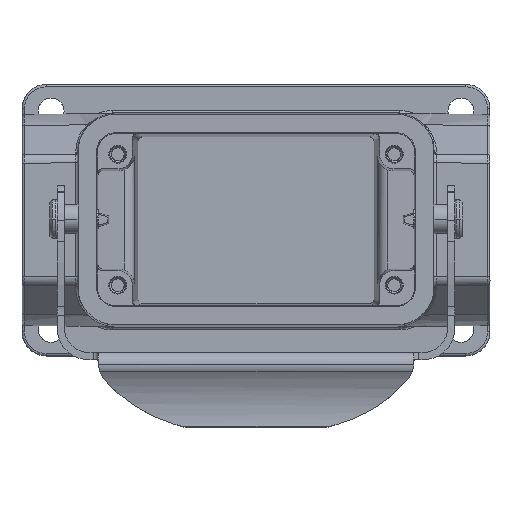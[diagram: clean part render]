
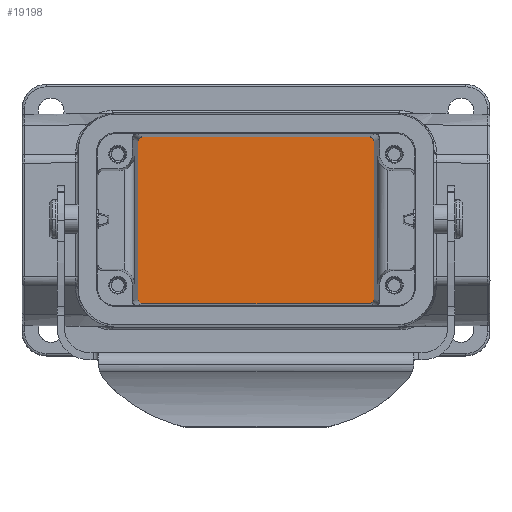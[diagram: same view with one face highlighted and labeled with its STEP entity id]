
A CAD part, top view. The second image highlights one B-rep face of the part: STEP entity #19198.
In plain terms, the highlighted planar face has unit normal (0, 0, 1) as drawn and (0, 1, 0) by its records, which use the part's own axes.
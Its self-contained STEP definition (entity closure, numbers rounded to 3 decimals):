
#61 = VERTEX_POINT ( 'NONE', #18307 ) ;
#327 = CARTESIAN_POINT ( 'NONE',  ( -17.18, 4., 34.194 ) ) ;
#509 = EDGE_CURVE ( 'NONE', #14021, #3366, #556, .T. ) ;
#525 = CARTESIAN_POINT ( 'NONE',  ( 16.181, 4., 34.608 ) ) ;
#556 =( BOUNDED_CURVE ( )  B_SPLINE_CURVE ( 3, ( #16026, #3592, #14548, #6668 ),
 .UNSPECIFIED., .F., .T. ) 
 B_SPLINE_CURVE_WITH_KNOTS ( ( 4, 4 ),
 ( 5.176, 6.747 ),
 .UNSPECIFIED. ) 
 CURVE ( )  GEOMETRIC_REPRESENTATION_ITEM ( )  RATIONAL_B_SPLINE_CURVE ( ( 1., 0.805, 0.805, 1. ) ) 
 REPRESENTATION_ITEM ( '' )  );
#571 = ORIENTED_EDGE ( 'NONE', *, *, #14995, .T. ) ;
#675 = CARTESIAN_POINT ( 'NONE',  ( -17.18, 4., -13.694 ) ) ;
#720 = DIRECTION ( 'NONE',  ( 1., 0., 0. ) ) ;
#795 = CARTESIAN_POINT ( 'NONE',  ( 17.18, 4., 33.608 ) ) ;
#1424 = VECTOR ( 'NONE', #5761, 1000. ) ;
#2074 = VERTEX_POINT ( 'NONE', #5659 ) ;
#2287 =( BOUNDED_CURVE ( )  B_SPLINE_CURVE ( 3, ( #525, #11693, #12910, #795 ),
 .UNSPECIFIED., .F., .F. ) 
 B_SPLINE_CURVE_WITH_KNOTS ( ( 4, 4 ),
 ( 2.678, 4.249 ),
 .UNSPECIFIED. ) 
 CURVE ( )  GEOMETRIC_REPRESENTATION_ITEM ( )  RATIONAL_B_SPLINE_CURVE ( ( 1., 0.805, 0.805, 1. ) ) 
 REPRESENTATION_ITEM ( '' )  );
#2373 = CARTESIAN_POINT ( 'NONE',  ( 0., 4., 0. ) ) ;
#2431 = EDGE_CURVE ( 'NONE', #3366, #2074, #4027, .T. ) ;
#3271 = EDGE_LOOP ( 'NONE', ( #19664, #16877, #17690, #11550, #4729, #571, #3277, #10290 ) ) ;
#3277 = ORIENTED_EDGE ( 'NONE', *, *, #509, .T. ) ;
#3366 = VERTEX_POINT ( 'NONE', #7966 ) ;
#3592 = CARTESIAN_POINT ( 'NONE',  ( 17.18, 4., -13.694 ) ) ;
#3885 = CARTESIAN_POINT ( 'NONE',  ( -16.766, 4., -14.108 ) ) ;
#3951 = PLANE ( 'NONE',  #14513 ) ;
#4027 = LINE ( 'NONE', #4809, #10123 ) ;
#4365 = LINE ( 'NONE', #7333, #1424 ) ;
#4477 = CARTESIAN_POINT ( 'NONE',  ( -16.181, 4., 34.608 ) ) ;
#4729 = ORIENTED_EDGE ( 'NONE', *, *, #14286, .T. ) ;
#4809 = CARTESIAN_POINT ( 'NONE',  ( 0., 4., -14.108 ) ) ;
#5600 = CARTESIAN_POINT ( 'NONE',  ( 17.18, 4., 42.06 ) ) ;
#5659 = CARTESIAN_POINT ( 'NONE',  ( -16.181, 4., -14.108 ) ) ;
#5761 = DIRECTION ( 'NONE',  ( 0., 0., 1. ) ) ;
#6481 = CARTESIAN_POINT ( 'NONE',  ( 17.18, 4., -13.108 ) ) ;
#6668 = CARTESIAN_POINT ( 'NONE',  ( 16.181, 4., -14.108 ) ) ;
#6837 = CARTESIAN_POINT ( 'NONE',  ( -17.18, 4., -13.108 ) ) ;
#7333 = CARTESIAN_POINT ( 'NONE',  ( -17.18, 4., -42.06 ) ) ;
#7550 = VERTEX_POINT ( 'NONE', #4477 ) ;
#7580 = VECTOR ( 'NONE', #720, 1000. ) ;
#7966 = CARTESIAN_POINT ( 'NONE',  ( 16.181, 4., -14.108 ) ) ;
#7985 = EDGE_CURVE ( 'NONE', #61, #9828, #4365, .T. ) ;
#8037 =( BOUNDED_CURVE ( )  B_SPLINE_CURVE ( 3, ( #17377, #327, #12524, #11100 ),
 .UNSPECIFIED., .F., .F. ) 
 B_SPLINE_CURVE_WITH_KNOTS ( ( 4, 4 ),
 ( 5.176, 6.747 ),
 .UNSPECIFIED. ) 
 CURVE ( )  GEOMETRIC_REPRESENTATION_ITEM ( )  RATIONAL_B_SPLINE_CURVE ( ( 1., 0.805, 0.805, 1. ) ) 
 REPRESENTATION_ITEM ( '' )  );
#8327 = DIRECTION ( 'NONE',  ( 0., 0., 1. ) ) ;
#9058 = CARTESIAN_POINT ( 'NONE',  ( 17.18, 4., 33.608 ) ) ;
#9828 = VERTEX_POINT ( 'NONE', #11684 ) ;
#10123 = VECTOR ( 'NONE', #20145, 1000. ) ;
#10290 = ORIENTED_EDGE ( 'NONE', *, *, #2431, .T. ) ;
#11100 = CARTESIAN_POINT ( 'NONE',  ( -16.181, 4., 34.608 ) ) ;
#11550 = ORIENTED_EDGE ( 'NONE', *, *, #15461, .T. ) ;
#11684 = CARTESIAN_POINT ( 'NONE',  ( -17.18, 4., 33.608 ) ) ;
#11693 = CARTESIAN_POINT ( 'NONE',  ( 16.766, 4., 34.608 ) ) ;
#11703 = CARTESIAN_POINT ( 'NONE',  ( -16.181, 4., -14.108 ) ) ;
#11809 = FACE_OUTER_BOUND ( 'NONE', #3271, .T. ) ;
#12524 = CARTESIAN_POINT ( 'NONE',  ( -16.766, 4., 34.608 ) ) ;
#12910 = CARTESIAN_POINT ( 'NONE',  ( 17.18, 4., 34.194 ) ) ;
#13184 = VECTOR ( 'NONE', #20030, 1000. ) ;
#13837 = CARTESIAN_POINT ( 'NONE',  ( 16.181, 4., 34.608 ) ) ;
#13848 = VERTEX_POINT ( 'NONE', #13837 ) ;
#14021 = VERTEX_POINT ( 'NONE', #6481 ) ;
#14286 = EDGE_CURVE ( 'NONE', #13848, #14461, #2287, .T. ) ;
#14461 = VERTEX_POINT ( 'NONE', #9058 ) ;
#14513 = AXIS2_PLACEMENT_3D ( 'NONE', #2373, #17652, #8327 ) ;
#14548 = CARTESIAN_POINT ( 'NONE',  ( 16.766, 4., -14.108 ) ) ;
#14995 = EDGE_CURVE ( 'NONE', #14461, #14021, #17279, .T. ) ;
#15122 = LINE ( 'NONE', #19246, #7580 ) ;
#15461 = EDGE_CURVE ( 'NONE', #7550, #13848, #15122, .T. ) ;
#16026 = CARTESIAN_POINT ( 'NONE',  ( 17.18, 4., -13.108 ) ) ;
#16877 = ORIENTED_EDGE ( 'NONE', *, *, #7985, .T. ) ;
#17279 = LINE ( 'NONE', #5600, #13184 ) ;
#17377 = CARTESIAN_POINT ( 'NONE',  ( -17.18, 4., 33.608 ) ) ;
#17652 = DIRECTION ( 'NONE',  ( 0., 1., 0. ) ) ;
#17690 = ORIENTED_EDGE ( 'NONE', *, *, #18571, .T. ) ;
#18307 = CARTESIAN_POINT ( 'NONE',  ( -17.18, 4., -13.108 ) ) ;
#18571 = EDGE_CURVE ( 'NONE', #9828, #7550, #8037, .T. ) ;
#19148 = EDGE_CURVE ( 'NONE', #2074, #61, #19967, .T. ) ;
#19198 = ADVANCED_FACE ( 'NONE', ( #11809 ), #3951, .T. ) ;
#19246 = CARTESIAN_POINT ( 'NONE',  ( 0., 4., 34.608 ) ) ;
#19664 = ORIENTED_EDGE ( 'NONE', *, *, #19148, .T. ) ;
#19967 =( BOUNDED_CURVE ( )  B_SPLINE_CURVE ( 3, ( #11703, #3885, #675, #6837 ),
 .UNSPECIFIED., .F., .F. ) 
 B_SPLINE_CURVE_WITH_KNOTS ( ( 4, 4 ),
 ( 2.678, 4.249 ),
 .UNSPECIFIED. ) 
 CURVE ( )  GEOMETRIC_REPRESENTATION_ITEM ( )  RATIONAL_B_SPLINE_CURVE ( ( 1., 0.805, 0.805, 1. ) ) 
 REPRESENTATION_ITEM ( '' )  );
#20030 = DIRECTION ( 'NONE',  ( 0., 0., -1. ) ) ;
#20145 = DIRECTION ( 'NONE',  ( -1., 0., 0. ) ) ;
